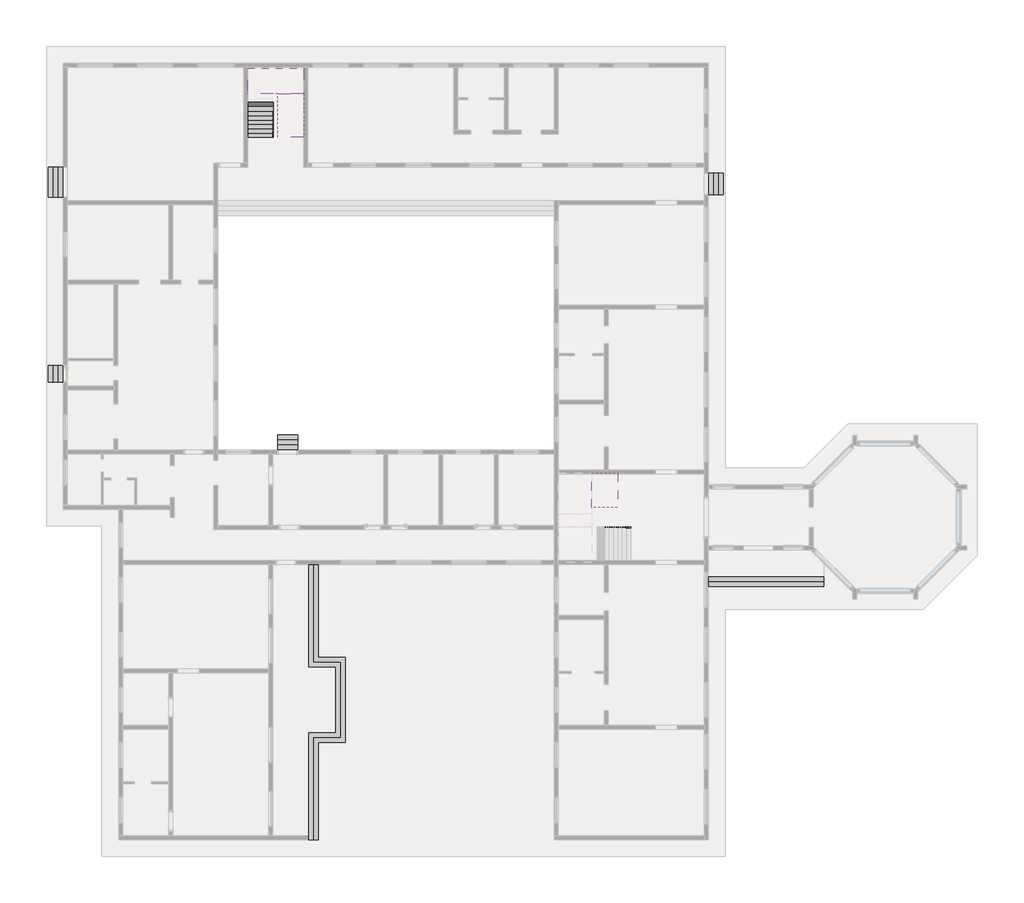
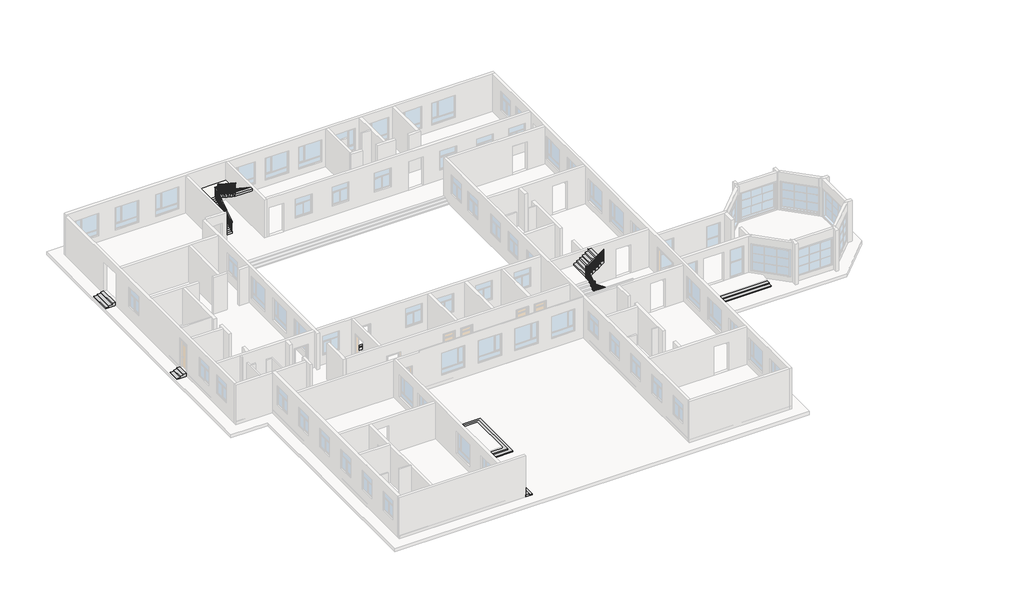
# One storey, part 5 of 5: 3 stair flights, 2 railings, 1 proxy, 1 slab.
"""IFC4 building model written with IfcOpenShell, lengths in millimetres."""

from ifc_helpers import new_model, si_unit, frame, origin, place, context, project, spatial, polyline, outline, extrude, faceted_brep, transform, mapped, element, save
from components import generic_models_56ddb578

model = new_model("IFC4")

# Units and contexts
model_context = context("Model", 3, world=origin())
ifc_project = project(units=[si_unit("LENGTHUNIT", "METRE", prefix="MILLI")], contexts=[model_context])

# Site, building, storey
site = spatial("IfcSite", under=ifc_project)
building = spatial("IfcBuilding", under=site)
storey = spatial("IfcBuildingStorey", under=building, Name="一层", Elevation=0.0)

# Proxy
placement = place(None, origin())
generic_models_shape = generic_models_56ddb578(model_context)
element("IfcBuildingElementProxy", 1, Name="常规模型 1 : 常规模型 1", ObjectType="常规模型 1 : 常规模型 1", at=placement, inside=storey, context=model_context, shape_type="MappedRepresentation", body=[
    mapped(generic_models_shape, transform((0.0, 0.0, 0.0), x_axis=(1.0, 0.0, 0.0), y_axis=(0.0, 1.0, 0.0), z_axis=(0.0, 0.0, 1.0))),
])

# Railings
element("IfcRailing", 2, ObjectType="900mm 2", at=placement, inside=storey, context=model_context, shape_type="SolidModel", body=[
    faceted_brep([(1589.7168608, -9143.7838385, 1080.0), (1589.7168608, -9143.7838385, 1019.1869681), (1589.7168608, -9093.7838385, 1019.1869681), (1589.7168608, -9093.7838385, 1080.0), (-675.2831392, -9143.7838385, 2648.0769231), (-725.2831392, -9143.7838385, 2621.8792758), (-725.2831392, -9093.7838385, 2621.8792758), (-675.2831392, -9093.7838385, 2648.0769231), (-800.2831392, -9003.1650146, 2881.9230769), (-800.2831392, -9018.7838385, 2931.9230769), (-800.2831392, -7993.7838385, 3641.5384615), (-800.2831392, -7978.1650146, 3591.5384615), (-750.2831392, -9003.1650146, 2881.9230769), (-750.2831392, -7978.1650146, 3591.5384615), (-750.2831392, -9018.7838385, 2931.9230769), (-750.2831392, -7993.7838385, 3641.5384615), (-800.2831392, -7883.7838385, 3591.5384615), (-800.2831392, -7883.7838385, 3641.5384615), (-690.2831392, -7883.7838385, 3641.5384615), (-674.6643153, -7883.7838385, 3591.5384615), (-750.2831392, -7933.7838385, 3591.5384615), (-674.6643153, -7933.7838385, 3591.5384615), (-750.2831392, -7933.7838385, 3641.5384615), (-690.2831392, -7933.7838385, 3641.5384615), (-675.2831392, -9143.7838385, 2931.9230769), (-725.2831392, -9143.7838385, 2881.9230769), (-725.2831392, -9093.7838385, 2881.9230769), (-675.2831392, -9093.7838385, 2931.9230769), (-800.2831392, -9143.7838385, 2931.9230769), (-800.2831392, -9143.7838385, 2881.9230769), (-750.2831392, -9093.7838385, 2881.9230769), (-750.2831392, -9093.7838385, 2931.9230769), (809.7168608, -7883.7838385, 4680.0), (809.7168608, -7933.7838385, 4680.0), (809.7168608, -7933.7838385, 4619.1869681), (809.7168608, -7883.7838385, 4619.1869681)], [[[0, 1, 2, 3]], [[1, 0, 4, 5]], [[2, 1, 5, 6]], [[3, 2, 6, 7]], [[0, 3, 7, 4]], [[8, 9, 10, 11]], [[12, 8, 11, 13]], [[14, 12, 13, 15]], [[9, 14, 15, 10]], [[16, 17, 18, 19]], [[20, 16, 19, 21]], [[22, 20, 21, 23]], [[17, 22, 23, 18]], [[5, 4, 24, 25]], [[6, 5, 25, 26]], [[7, 6, 26, 27]], [[4, 7, 27, 24]], [[25, 24, 28, 29]], [[26, 25, 29, 30]], [[27, 26, 30, 31]], [[24, 27, 31, 28]], [[29, 28, 9, 8]], [[30, 29, 8, 12]], [[31, 30, 12, 14]], [[28, 31, 14, 9]], [[11, 10, 17, 16]], [[13, 11, 16, 20]], [[15, 13, 20, 22]], [[10, 15, 22, 17]], [[32, 33, 34, 35]], [[19, 18, 32, 35]], [[21, 19, 35, 34]], [[23, 21, 34, 33]], [[18, 23, 33, 32]]]),
    extrude(outline(polyline([(4608.8023527, 794.7168608), (3600.0, 794.7168608), (3600.0, 814.7168608), (4622.6485065, 814.7168608), (4608.8023527, 794.7168608)])), frame((0.0, -7918.7838385, 0.0), z_axis=(0.0, 1.0, 0.0), x_axis=(0.0, 0.0, 1.0)), (0.0, 0.0, 1.0), 20.0),
    extrude(outline(polyline([(4518.8023527, 664.7168608), (3600.0, 664.7168608), (3600.0, 684.7168608), (4532.6485065, 684.7168608), (4518.8023527, 664.7168608)])), frame((0.0, -7918.7838385, 0.0), z_axis=(0.0, 1.0, 0.0), x_axis=(0.0, 0.0, 1.0)), (0.0, 0.0, 1.0), 20.0),
    extrude(outline(polyline([(4428.8023527, 534.7168608), (3420.0, 534.7168608), (3420.0, 554.7168608), (4442.6485065, 554.7168608), (4428.8023527, 534.7168608)])), frame((0.0, -7918.7838385, 0.0), z_axis=(0.0, 1.0, 0.0), x_axis=(0.0, 0.0, 1.0)), (0.0, 0.0, 1.0), 20.0),
    extrude(outline(polyline([(4338.8023527, 404.7168608), (3420.0, 404.7168608), (3420.0, 424.7168608), (4352.6485065, 424.7168608), (4338.8023527, 404.7168608)])), frame((0.0, -7918.7838385, 0.0), z_axis=(0.0, 1.0, 0.0), x_axis=(0.0, 0.0, 1.0)), (0.0, 0.0, 1.0), 20.0),
    extrude(outline(polyline([(4248.8023527, 274.7168608), (3240.0, 274.7168608), (3240.0, 294.7168608), (4262.6485065, 294.7168608), (4248.8023527, 274.7168608)])), frame((0.0, -7918.7838385, 0.0), z_axis=(0.0, 1.0, 0.0), x_axis=(0.0, 0.0, 1.0)), (0.0, 0.0, 1.0), 20.0),
    extrude(outline(polyline([(4158.8023527, 144.7168608), (3240.0, 144.7168608), (3240.0, 164.7168608), (4172.6485065, 164.7168608), (4158.8023527, 144.7168608)])), frame((0.0, -7918.7838385, 0.0), z_axis=(0.0, 1.0, 0.0), x_axis=(0.0, 0.0, 1.0)), (0.0, 0.0, 1.0), 20.0),
    extrude(outline(polyline([(4068.8023527, 14.7168608), (3060.0, 14.7168608), (3060.0, 34.7168608), (4082.6485065, 34.7168608), (4068.8023527, 14.7168608)])), frame((0.0, -7918.7838385, 0.0), z_axis=(0.0, 1.0, 0.0), x_axis=(0.0, 0.0, 1.0)), (0.0, 0.0, 1.0), 20.0),
    extrude(outline(polyline([(3978.8023527, -115.2831392), (3060.0, -115.2831392), (3060.0, -95.2831392), (3992.6485065, -95.2831392), (3978.8023527, -115.2831392)])), frame((0.0, -7918.7838385, 0.0), z_axis=(0.0, 1.0, 0.0), x_axis=(0.0, 0.0, 1.0)), (0.0, 0.0, 1.0), 20.0),
    extrude(outline(polyline([(3888.8023527, -245.2831392), (2880.0, -245.2831392), (2880.0, -225.2831392), (3902.6485065, -225.2831392), (3888.8023527, -245.2831392)])), frame((0.0, -7918.7838385, 0.0), z_axis=(0.0, 1.0, 0.0), x_axis=(0.0, 0.0, 1.0)), (0.0, 0.0, 1.0), 20.0),
    extrude(outline(polyline([(3798.8023527, -375.2831392), (2880.0, -375.2831392), (2880.0, -355.2831392), (3812.6485065, -355.2831392), (3798.8023527, -375.2831392)])), frame((0.0, -7918.7838385, 0.0), z_axis=(0.0, 1.0, 0.0), x_axis=(0.0, 0.0, 1.0)), (0.0, 0.0, 1.0), 20.0),
    extrude(outline(polyline([(3708.8023527, -505.2831392), (2700.0, -505.2831392), (2700.0, -485.2831392), (3722.6485065, -485.2831392), (3708.8023527, -505.2831392)])), frame((0.0, -7918.7838385, 0.0), z_axis=(0.0, 1.0, 0.0), x_axis=(0.0, 0.0, 1.0)), (0.0, 0.0, 1.0), 20.0),
    extrude(outline(polyline([(3618.8023527, -635.2831392), (2700.0, -635.2831392), (2700.0, -615.2831392), (3632.6485065, -615.2831392), (3618.8023527, -635.2831392)])), frame((0.0, -7918.7838385, 0.0), z_axis=(0.0, 1.0, 0.0), x_axis=(0.0, 0.0, 1.0)), (0.0, 0.0, 1.0), 20.0),
    extrude(outline(polyline([(-720.2831392, -7918.7838385), (-720.2831392, -7898.7838385), (-700.2831392, -7898.7838385), (-700.2831392, -7918.7838385), (-720.2831392, -7918.7838385)])), frame((0.0, 0.0, 2700.0), z_axis=(0.0, 0.0, 1.0), x_axis=(1.0, 0.0, 0.0)), (0.0, 0.0, 1.0), 891.5384615),
    extrude(outline(polyline([(-765.2831392, -7938.7838385), (-785.2831392, -7938.7838385), (-785.2831392, -7918.7838385), (-765.2831392, -7918.7838385), (-765.2831392, -7938.7838385)])), frame((0.0, 0.0, 2520.0), z_axis=(0.0, 0.0, 1.0), x_axis=(1.0, 0.0, 0.0)), (0.0, 0.0, 1.0), 1071.5384615),
    extrude(outline(polyline([(-8023.7838385, 2520.0), (-8023.7838385, 3559.9561988), (-8003.7838385, 3573.8023527), (-8003.7838385, 2520.0), (-8023.7838385, 2520.0)])), frame((-785.2831392, 0.0, 0.0), z_axis=(1.0, 0.0, 0.0), x_axis=(0.0, 1.0, 0.0)), (0.0, 0.0, 1.0), 20.0),
    extrude(outline(polyline([(-8153.7838385, 2520.0), (-8153.7838385, 3469.9561988), (-8133.7838385, 3483.8023527), (-8133.7838385, 2520.0), (-8153.7838385, 2520.0)])), frame((-785.2831392, 0.0, 0.0), z_axis=(1.0, 0.0, 0.0), x_axis=(0.0, 1.0, 0.0)), (0.0, 0.0, 1.0), 20.0),
    extrude(outline(polyline([(-8283.7838385, 2520.0), (-8283.7838385, 3379.9561988), (-8263.7838385, 3393.8023527), (-8263.7838385, 2520.0), (-8283.7838385, 2520.0)])), frame((-785.2831392, 0.0, 0.0), z_axis=(1.0, 0.0, 0.0), x_axis=(0.0, 1.0, 0.0)), (0.0, 0.0, 1.0), 20.0),
    extrude(outline(polyline([(-8413.7838385, 2340.0), (-8413.7838385, 3289.9561988), (-8393.7838385, 3303.8023527), (-8393.7838385, 2340.0), (-8413.7838385, 2340.0)])), frame((-785.2831392, 0.0, 0.0), z_axis=(1.0, 0.0, 0.0), x_axis=(0.0, 1.0, 0.0)), (0.0, 0.0, 1.0), 20.0),
    extrude(outline(polyline([(-8543.7838385, 2340.0), (-8543.7838385, 3199.9561988), (-8523.7838385, 3213.8023527), (-8523.7838385, 2340.0), (-8543.7838385, 2340.0)])), frame((-785.2831392, 0.0, 0.0), z_axis=(1.0, 0.0, 0.0), x_axis=(0.0, 1.0, 0.0)), (0.0, 0.0, 1.0), 20.0),
    extrude(outline(polyline([(-8673.7838385, 2160.0), (-8673.7838385, 3109.9561988), (-8653.7838385, 3123.8023527), (-8653.7838385, 2160.0), (-8673.7838385, 2160.0)])), frame((-785.2831392, 0.0, 0.0), z_axis=(1.0, 0.0, 0.0), x_axis=(0.0, 1.0, 0.0)), (0.0, 0.0, 1.0), 20.0),
    extrude(outline(polyline([(-8803.7838385, 2160.0), (-8803.7838385, 3019.9561988), (-8783.7838385, 3033.8023527), (-8783.7838385, 2160.0), (-8803.7838385, 2160.0)])), frame((-785.2831392, 0.0, 0.0), z_axis=(1.0, 0.0, 0.0), x_axis=(0.0, 1.0, 0.0)), (0.0, 0.0, 1.0), 20.0),
    extrude(outline(polyline([(-8933.7838385, 1980.0), (-8933.7838385, 2929.9561988), (-8913.7838385, 2943.8023527), (-8913.7838385, 1980.0), (-8933.7838385, 1980.0)])), frame((-785.2831392, 0.0, 0.0), z_axis=(1.0, 0.0, 0.0), x_axis=(0.0, 1.0, 0.0)), (0.0, 0.0, 1.0), 20.0),
    extrude(outline(polyline([(-765.2831392, -9063.7838385), (-785.2831392, -9063.7838385), (-785.2831392, -9043.7838385), (-765.2831392, -9043.7838385), (-765.2831392, -9063.7838385)])), frame((0.0, 0.0, 1980.0), z_axis=(0.0, 0.0, 1.0), x_axis=(1.0, 0.0, 0.0)), (0.0, 0.0, 1.0), 901.9230769),
    extrude(outline(polyline([(1620.0, -675.2831392), (2587.2638912, -675.2831392), (2601.110045, -695.2831392), (1620.0, -695.2831392), (1620.0, -675.2831392)])), frame((0.0, -9128.7838385, 0.0), z_axis=(0.0, 1.0, 0.0), x_axis=(0.0, 0.0, 1.0)), (0.0, 0.0, 1.0), 20.0),
    extrude(outline(polyline([(1620.0, -545.2831392), (2497.2638912, -545.2831392), (2511.110045, -565.2831392), (1620.0, -565.2831392), (1620.0, -545.2831392)])), frame((0.0, -9128.7838385, 0.0), z_axis=(0.0, 1.0, 0.0), x_axis=(0.0, 0.0, 1.0)), (0.0, 0.0, 1.0), 20.0),
    extrude(outline(polyline([(1440.0, -415.2831392), (2407.2638912, -415.2831392), (2421.110045, -435.2831392), (1440.0, -435.2831392), (1440.0, -415.2831392)])), frame((0.0, -9128.7838385, 0.0), z_axis=(0.0, 1.0, 0.0), x_axis=(0.0, 0.0, 1.0)), (0.0, 0.0, 1.0), 20.0),
    extrude(outline(polyline([(1440.0, -285.2831392), (2317.2638912, -285.2831392), (2331.110045, -305.2831392), (1440.0, -305.2831392), (1440.0, -285.2831392)])), frame((0.0, -9128.7838385, 0.0), z_axis=(0.0, 1.0, 0.0), x_axis=(0.0, 0.0, 1.0)), (0.0, 0.0, 1.0), 20.0),
    extrude(outline(polyline([(1260.0, -155.2831392), (2227.2638912, -155.2831392), (2241.110045, -175.2831392), (1260.0, -175.2831392), (1260.0, -155.2831392)])), frame((0.0, -9128.7838385, 0.0), z_axis=(0.0, 1.0, 0.0), x_axis=(0.0, 0.0, 1.0)), (0.0, 0.0, 1.0), 20.0),
    extrude(outline(polyline([(1260.0, -25.2831392), (2137.2638912, -25.2831392), (2151.110045, -45.2831392), (1260.0, -45.2831392), (1260.0, -25.2831392)])), frame((0.0, -9128.7838385, 0.0), z_axis=(0.0, 1.0, 0.0), x_axis=(0.0, 0.0, 1.0)), (0.0, 0.0, 1.0), 20.0),
    extrude(outline(polyline([(1080.0, 104.7168608), (2047.2638912, 104.7168608), (2061.110045, 84.7168608), (1080.0, 84.7168608), (1080.0, 104.7168608)])), frame((0.0, -9128.7838385, 0.0), z_axis=(0.0, 1.0, 0.0), x_axis=(0.0, 0.0, 1.0)), (0.0, 0.0, 1.0), 20.0),
    extrude(outline(polyline([(1080.0, 234.7168608), (1957.2638912, 234.7168608), (1971.110045, 214.7168608), (1080.0, 214.7168608), (1080.0, 234.7168608)])), frame((0.0, -9128.7838385, 0.0), z_axis=(0.0, 1.0, 0.0), x_axis=(0.0, 0.0, 1.0)), (0.0, 0.0, 1.0), 20.0),
    extrude(outline(polyline([(900.0, 364.7168608), (1867.2638912, 364.7168608), (1881.110045, 344.7168608), (900.0, 344.7168608), (900.0, 364.7168608)])), frame((0.0, -9128.7838385, 0.0), z_axis=(0.0, 1.0, 0.0), x_axis=(0.0, 0.0, 1.0)), (0.0, 0.0, 1.0), 20.0),
    extrude(outline(polyline([(900.0, 494.7168608), (1777.2638912, 494.7168608), (1791.110045, 474.7168608), (900.0, 474.7168608), (900.0, 494.7168608)])), frame((0.0, -9128.7838385, 0.0), z_axis=(0.0, 1.0, 0.0), x_axis=(0.0, 0.0, 1.0)), (0.0, 0.0, 1.0), 20.0),
    extrude(outline(polyline([(720.0, 624.7168608), (1687.2638912, 624.7168608), (1701.110045, 604.7168608), (720.0, 604.7168608), (720.0, 624.7168608)])), frame((0.0, -9128.7838385, 0.0), z_axis=(0.0, 1.0, 0.0), x_axis=(0.0, 0.0, 1.0)), (0.0, 0.0, 1.0), 20.0),
    extrude(outline(polyline([(720.0, 754.7168608), (1597.2638912, 754.7168608), (1611.110045, 734.7168608), (720.0, 734.7168608), (720.0, 754.7168608)])), frame((0.0, -9128.7838385, 0.0), z_axis=(0.0, 1.0, 0.0), x_axis=(0.0, 0.0, 1.0)), (0.0, 0.0, 1.0), 20.0),
    extrude(outline(polyline([(540.0, 884.7168608), (1507.2638912, 884.7168608), (1521.110045, 864.7168608), (540.0, 864.7168608), (540.0, 884.7168608)])), frame((0.0, -9128.7838385, 0.0), z_axis=(0.0, 1.0, 0.0), x_axis=(0.0, 0.0, 1.0)), (0.0, 0.0, 1.0), 20.0),
    extrude(outline(polyline([(540.0, 1014.7168608), (1417.2638912, 1014.7168608), (1431.110045, 994.7168608), (540.0, 994.7168608), (540.0, 1014.7168608)])), frame((0.0, -9128.7838385, 0.0), z_axis=(0.0, 1.0, 0.0), x_axis=(0.0, 0.0, 1.0)), (0.0, 0.0, 1.0), 20.0),
    extrude(outline(polyline([(360.0, 1144.7168608), (1327.2638912, 1144.7168608), (1341.110045, 1124.7168608), (360.0, 1124.7168608), (360.0, 1144.7168608)])), frame((0.0, -9128.7838385, 0.0), z_axis=(0.0, 1.0, 0.0), x_axis=(0.0, 0.0, 1.0)), (0.0, 0.0, 1.0), 20.0),
    extrude(outline(polyline([(360.0, 1274.7168608), (1237.2638912, 1274.7168608), (1251.110045, 1254.7168608), (360.0, 1254.7168608), (360.0, 1274.7168608)])), frame((0.0, -9128.7838385, 0.0), z_axis=(0.0, 1.0, 0.0), x_axis=(0.0, 0.0, 1.0)), (0.0, 0.0, 1.0), 20.0),
    extrude(outline(polyline([(180.0, 1404.7168608), (1147.2638912, 1404.7168608), (1161.110045, 1384.7168608), (180.0, 1384.7168608), (180.0, 1404.7168608)])), frame((0.0, -9128.7838385, 0.0), z_axis=(0.0, 1.0, 0.0), x_axis=(0.0, 0.0, 1.0)), (0.0, 0.0, 1.0), 20.0),
    extrude(outline(polyline([(180.0, 1534.7168608), (1057.2638912, 1534.7168608), (1071.110045, 1514.7168608), (180.0, 1514.7168608), (180.0, 1534.7168608)])), frame((0.0, -9128.7838385, 0.0), z_axis=(0.0, 1.0, 0.0), x_axis=(0.0, 0.0, 1.0)), (0.0, 0.0, 1.0), 20.0),
    extrude(outline(polyline([(-700.2831392, -7918.7838385), (-700.2831392, -7898.7838385), (-680.2831392, -7898.7838385), (-680.2831392, -7918.7838385), (-700.2831392, -7918.7838385)])), frame((0.0, 0.0, 2700.0), z_axis=(0.0, 0.0, 1.0), x_axis=(1.0, 0.0, 0.0)), (0.0, 0.0, 1.0), 891.5384615),
    extrude(outline(polyline([(-765.2831392, -7918.7838385), (-785.2831392, -7918.7838385), (-785.2831392, -7898.7838385), (-765.2831392, -7898.7838385), (-765.2831392, -7918.7838385)])), frame((0.0, 0.0, 2520.0), z_axis=(0.0, 0.0, 1.0), x_axis=(1.0, 0.0, 0.0)), (0.0, 0.0, 1.0), 1071.5384615),
    extrude(outline(polyline([(-8003.7838385, 2520.0), (-8003.7838385, 3573.8023527), (-7983.7838385, 3587.6485065), (-7983.7838385, 2520.0), (-8003.7838385, 2520.0)])), frame((-785.2831392, 0.0, 0.0), z_axis=(1.0, 0.0, 0.0), x_axis=(0.0, 1.0, 0.0)), (0.0, 0.0, 1.0), 20.0),
    extrude(outline(polyline([(-765.2831392, -9128.7838385), (-785.2831392, -9128.7838385), (-785.2831392, -9108.7838385), (-765.2831392, -9108.7838385), (-765.2831392, -9128.7838385)])), frame((0.0, 0.0, 1800.0), z_axis=(0.0, 0.0, 1.0), x_axis=(1.0, 0.0, 0.0)), (0.0, 0.0, 1.0), 1081.9230769),
])
element("IfcRailing", 3, ObjectType="900mm 5", at=placement, inside=storey, context=model_context, shape_type="SolidModel", body=[
    faceted_brep([(-19850.6831392, 14256.2161615, 1071.4285714), (-19850.6831392, 14256.2161615, 1011.5384615), (-19800.6831392, 14256.2161615, 1011.5384615), (-19800.6831392, 14256.2161615, 1071.4285714), (-19850.6831392, 16781.6161615, 2736.5274725), (-19850.6831392, 16831.6161615, 2709.6043956), (-19800.6831392, 16831.6161615, 2709.6043956), (-19800.6831392, 16781.6161615, 2736.5274725), (-19850.6831392, 16781.6161615, 2785.7142857), (-19850.6831392, 16831.6161615, 2735.7142857), (-19800.6831392, 16831.6161615, 2735.7142857), (-19800.6831392, 16781.6161615, 2785.7142857), (-19850.6831392, 16906.6161615, 2785.7142857), (-19850.6831392, 16906.6161615, 2735.7142857), (-19800.6831392, 16856.6161615, 2735.7142857), (-19800.6831392, 16856.6161615, 2785.7142857), (-19725.6831392, 16906.6161615, 2785.7142857), (-19725.6831392, 16906.6161615, 2735.7142857), (-19725.6831392, 16856.6161615, 2735.7142857), (-19725.6831392, 16856.6161615, 2785.7142857), (-19614.8831392, 16906.6161615, 2785.7142857), (-19564.8831392, 16906.6161615, 2735.7142857), (-19564.8831392, 16856.6161615, 2735.7142857), (-19614.8831392, 16856.6161615, 2785.7142857), (-19614.8831392, 16906.6161615, 3006.3296703), (-19564.8831392, 16906.6161615, 2956.3296703), (-19564.8831392, 16856.6161615, 2956.3296703), (-19614.8831392, 16856.6161615, 3006.3296703), (-19489.8831392, 16906.6161615, 3006.3296703), (-19489.8831392, 16906.6161615, 2956.3296703), (-19539.8831392, 16856.6161615, 2956.3296703), (-19539.8831392, 16856.6161615, 3006.3296703), (-19489.8831392, 16781.6161615, 3006.3296703), (-19489.8831392, 16766.6161615, 2956.3296703), (-19539.8831392, 16766.6161615, 2956.3296703), (-19539.8831392, 16781.6161615, 3006.3296703), (-19489.8831392, 14256.2161615, 4671.4285714), (-19539.8831392, 14256.2161615, 4671.4285714), (-19539.8831392, 14256.2161615, 4611.5384615), (-19489.8831392, 14256.2161615, 4611.5384615)], [[[0, 1, 2, 3]], [[1, 0, 4, 5]], [[2, 1, 5, 6]], [[3, 2, 6, 7]], [[0, 3, 7, 4]], [[5, 4, 8, 9]], [[6, 5, 9, 10]], [[7, 6, 10, 11]], [[4, 7, 11, 8]], [[9, 8, 12, 13]], [[10, 9, 13, 14]], [[11, 10, 14, 15]], [[8, 11, 15, 12]], [[13, 12, 16, 17]], [[14, 13, 17, 18]], [[15, 14, 18, 19]], [[12, 15, 19, 16]], [[17, 16, 20, 21]], [[18, 17, 21, 22]], [[19, 18, 22, 23]], [[16, 19, 23, 20]], [[21, 20, 24, 25]], [[22, 21, 25, 26]], [[23, 22, 26, 27]], [[20, 23, 27, 24]], [[25, 24, 28, 29]], [[26, 25, 29, 30]], [[27, 26, 30, 31]], [[24, 27, 31, 28]], [[29, 28, 32, 33]], [[30, 29, 33, 34]], [[31, 30, 34, 35]], [[28, 31, 35, 32]], [[36, 37, 38, 39]], [[33, 32, 36, 39]], [[34, 33, 39, 38]], [[35, 34, 38, 37]], [[32, 35, 37, 36]]]),
    extrude(outline(polyline([(14356.6161615, 4545.3406593), (14356.6161615, 3600.0), (14336.6161615, 3600.0), (14336.6161615, 4558.5274725), (14356.6161615, 4545.3406593)])), frame((-19524.8831392, 0.0, 0.0), z_axis=(1.0, 0.0, 0.0), x_axis=(0.0, 1.0, 0.0)), (0.0, 0.0, 1.0), 20.0),
    extrude(outline(polyline([(14486.6161615, 4459.6263736), (14486.6161615, 3600.0), (14466.6161615, 3600.0), (14466.6161615, 4472.8131868), (14486.6161615, 4459.6263736)])), frame((-19524.8831392, 0.0, 0.0), z_axis=(1.0, 0.0, 0.0), x_axis=(0.0, 1.0, 0.0)), (0.0, 0.0, 1.0), 20.0),
    extrude(outline(polyline([(14616.6161615, 4373.9120879), (14616.6161615, 3428.5714286), (14596.6161615, 3428.5714286), (14596.6161615, 4387.0989011), (14616.6161615, 4373.9120879)])), frame((-19524.8831392, 0.0, 0.0), z_axis=(1.0, 0.0, 0.0), x_axis=(0.0, 1.0, 0.0)), (0.0, 0.0, 1.0), 20.0),
    extrude(outline(polyline([(14746.6161615, 4288.1978022), (14746.6161615, 3428.5714286), (14726.6161615, 3428.5714286), (14726.6161615, 4301.3846154), (14746.6161615, 4288.1978022)])), frame((-19524.8831392, 0.0, 0.0), z_axis=(1.0, 0.0, 0.0), x_axis=(0.0, 1.0, 0.0)), (0.0, 0.0, 1.0), 20.0),
    extrude(outline(polyline([(14876.6161615, 4202.4835165), (14876.6161615, 3257.1428571), (14856.6161615, 3257.1428571), (14856.6161615, 4215.6703297), (14876.6161615, 4202.4835165)])), frame((-19524.8831392, 0.0, 0.0), z_axis=(1.0, 0.0, 0.0), x_axis=(0.0, 1.0, 0.0)), (0.0, 0.0, 1.0), 20.0),
    extrude(outline(polyline([(15006.6161615, 4116.7692308), (15006.6161615, 3257.1428571), (14986.6161615, 3257.1428571), (14986.6161615, 4129.956044), (15006.6161615, 4116.7692308)])), frame((-19524.8831392, 0.0, 0.0), z_axis=(1.0, 0.0, 0.0), x_axis=(0.0, 1.0, 0.0)), (0.0, 0.0, 1.0), 20.0),
    extrude(outline(polyline([(15136.6161615, 4031.0549451), (15136.6161615, 3085.7142857), (15116.6161615, 3085.7142857), (15116.6161615, 4044.2417582), (15136.6161615, 4031.0549451)])), frame((-19524.8831392, 0.0, 0.0), z_axis=(1.0, 0.0, 0.0), x_axis=(0.0, 1.0, 0.0)), (0.0, 0.0, 1.0), 20.0),
    extrude(outline(polyline([(15266.6161615, 3945.3406593), (15266.6161615, 3085.7142857), (15246.6161615, 3085.7142857), (15246.6161615, 3958.5274725), (15266.6161615, 3945.3406593)])), frame((-19524.8831392, 0.0, 0.0), z_axis=(1.0, 0.0, 0.0), x_axis=(0.0, 1.0, 0.0)), (0.0, 0.0, 1.0), 20.0),
    extrude(outline(polyline([(15396.6161615, 3859.6263736), (15396.6161615, 2914.2857143), (15376.6161615, 2914.2857143), (15376.6161615, 3872.8131868), (15396.6161615, 3859.6263736)])), frame((-19524.8831392, 0.0, 0.0), z_axis=(1.0, 0.0, 0.0), x_axis=(0.0, 1.0, 0.0)), (0.0, 0.0, 1.0), 20.0),
    extrude(outline(polyline([(15526.6161615, 3773.9120879), (15526.6161615, 2914.2857143), (15506.6161615, 2914.2857143), (15506.6161615, 3787.0989011), (15526.6161615, 3773.9120879)])), frame((-19524.8831392, 0.0, 0.0), z_axis=(1.0, 0.0, 0.0), x_axis=(0.0, 1.0, 0.0)), (0.0, 0.0, 1.0), 20.0),
    extrude(outline(polyline([(15656.6161615, 3688.1978022), (15656.6161615, 2742.8571429), (15636.6161615, 2742.8571429), (15636.6161615, 3701.3846154), (15656.6161615, 3688.1978022)])), frame((-19524.8831392, 0.0, 0.0), z_axis=(1.0, 0.0, 0.0), x_axis=(0.0, 1.0, 0.0)), (0.0, 0.0, 1.0), 20.0),
    extrude(outline(polyline([(15786.6161615, 3602.4835165), (15786.6161615, 2742.8571429), (15766.6161615, 2742.8571429), (15766.6161615, 3615.6703297), (15786.6161615, 3602.4835165)])), frame((-19524.8831392, 0.0, 0.0), z_axis=(1.0, 0.0, 0.0), x_axis=(0.0, 1.0, 0.0)), (0.0, 0.0, 1.0), 20.0),
    extrude(outline(polyline([(15916.6161615, 3516.7692308), (15916.6161615, 2571.4285714), (15896.6161615, 2571.4285714), (15896.6161615, 3529.956044), (15916.6161615, 3516.7692308)])), frame((-19524.8831392, 0.0, 0.0), z_axis=(1.0, 0.0, 0.0), x_axis=(0.0, 1.0, 0.0)), (0.0, 0.0, 1.0), 20.0),
    extrude(outline(polyline([(16046.6161615, 3431.0549451), (16046.6161615, 2571.4285714), (16026.6161615, 2571.4285714), (16026.6161615, 3444.2417582), (16046.6161615, 3431.0549451)])), frame((-19524.8831392, 0.0, 0.0), z_axis=(1.0, 0.0, 0.0), x_axis=(0.0, 1.0, 0.0)), (0.0, 0.0, 1.0), 20.0),
    extrude(outline(polyline([(16176.6161615, 3345.3406593), (16176.6161615, 2400.0), (16156.6161615, 2400.0), (16156.6161615, 3358.5274725), (16176.6161615, 3345.3406593)])), frame((-19524.8831392, 0.0, 0.0), z_axis=(1.0, 0.0, 0.0), x_axis=(0.0, 1.0, 0.0)), (0.0, 0.0, 1.0), 20.0),
    extrude(outline(polyline([(16306.6161615, 3259.6263736), (16306.6161615, 2400.0), (16286.6161615, 2400.0), (16286.6161615, 3272.8131868), (16306.6161615, 3259.6263736)])), frame((-19524.8831392, 0.0, 0.0), z_axis=(1.0, 0.0, 0.0), x_axis=(0.0, 1.0, 0.0)), (0.0, 0.0, 1.0), 20.0),
    extrude(outline(polyline([(16436.6161615, 3173.9120879), (16436.6161615, 2228.5714286), (16416.6161615, 2228.5714286), (16416.6161615, 3187.0989011), (16436.6161615, 3173.9120879)])), frame((-19524.8831392, 0.0, 0.0), z_axis=(1.0, 0.0, 0.0), x_axis=(0.0, 1.0, 0.0)), (0.0, 0.0, 1.0), 20.0),
    extrude(outline(polyline([(16566.6161615, 3088.1978022), (16566.6161615, 2228.5714286), (16546.6161615, 2228.5714286), (16546.6161615, 3101.3846154), (16566.6161615, 3088.1978022)])), frame((-19524.8831392, 0.0, 0.0), z_axis=(1.0, 0.0, 0.0), x_axis=(0.0, 1.0, 0.0)), (0.0, 0.0, 1.0), 20.0),
    extrude(outline(polyline([(16696.6161615, 3002.4835165), (16696.6161615, 2057.1428571), (16676.6161615, 2057.1428571), (16676.6161615, 3015.6703297), (16696.6161615, 3002.4835165)])), frame((-19524.8831392, 0.0, 0.0), z_axis=(1.0, 0.0, 0.0), x_axis=(0.0, 1.0, 0.0)), (0.0, 0.0, 1.0), 20.0),
    extrude(outline(polyline([(-19524.8831392, 16826.6161615), (-19504.8831392, 16826.6161615), (-19504.8831392, 16806.6161615), (-19524.8831392, 16806.6161615), (-19524.8831392, 16826.6161615)])), frame((0.0, 0.0, 2057.1428571), z_axis=(0.0, 0.0, 1.0), x_axis=(1.0, 0.0, 0.0)), (0.0, 0.0, 1.0), 899.1868132),
    extrude(outline(polyline([(-19640.6831392, 16871.6161615), (-19640.6831392, 16891.6161615), (-19620.6831392, 16891.6161615), (-19620.6831392, 16871.6161615), (-19640.6831392, 16871.6161615)])), frame((0.0, 0.0, 1885.7142857), z_axis=(0.0, 0.0, 1.0), x_axis=(1.0, 0.0, 0.0)), (0.0, 0.0, 1.0), 850.0),
    extrude(outline(polyline([(-19770.6831392, 16871.6161615), (-19770.6831392, 16891.6161615), (-19750.6831392, 16891.6161615), (-19750.6831392, 16871.6161615), (-19770.6831392, 16871.6161615)])), frame((0.0, 0.0, 1885.7142857), z_axis=(0.0, 0.0, 1.0), x_axis=(1.0, 0.0, 0.0)), (0.0, 0.0, 1.0), 850.0),
    extrude(outline(polyline([(16781.2161615, 1714.2857143), (16781.2161615, 2676.3736264), (16801.2161615, 2689.5604396), (16801.2161615, 1714.2857143), (16781.2161615, 1714.2857143)])), frame((-19835.6831392, 0.0, 0.0), z_axis=(1.0, 0.0, 0.0), x_axis=(0.0, 1.0, 0.0)), (0.0, 0.0, 1.0), 20.0),
    extrude(outline(polyline([(16651.2161615, 1714.2857143), (16651.2161615, 2590.6593407), (16671.2161615, 2603.8461538), (16671.2161615, 1714.2857143), (16651.2161615, 1714.2857143)])), frame((-19835.6831392, 0.0, 0.0), z_axis=(1.0, 0.0, 0.0), x_axis=(0.0, 1.0, 0.0)), (0.0, 0.0, 1.0), 20.0),
    extrude(outline(polyline([(16521.2161615, 1542.8571429), (16521.2161615, 2504.9450549), (16541.2161615, 2518.1318681), (16541.2161615, 1542.8571429), (16521.2161615, 1542.8571429)])), frame((-19835.6831392, 0.0, 0.0), z_axis=(1.0, 0.0, 0.0), x_axis=(0.0, 1.0, 0.0)), (0.0, 0.0, 1.0), 20.0),
    extrude(outline(polyline([(16391.2161615, 1542.8571429), (16391.2161615, 2419.2307692), (16411.2161615, 2432.4175824), (16411.2161615, 1542.8571429), (16391.2161615, 1542.8571429)])), frame((-19835.6831392, 0.0, 0.0), z_axis=(1.0, 0.0, 0.0), x_axis=(0.0, 1.0, 0.0)), (0.0, 0.0, 1.0), 20.0),
    extrude(outline(polyline([(16261.2161615, 1371.4285714), (16261.2161615, 2333.5164835), (16281.2161615, 2346.7032967), (16281.2161615, 1371.4285714), (16261.2161615, 1371.4285714)])), frame((-19835.6831392, 0.0, 0.0), z_axis=(1.0, 0.0, 0.0), x_axis=(0.0, 1.0, 0.0)), (0.0, 0.0, 1.0), 20.0),
    extrude(outline(polyline([(16131.2161615, 1371.4285714), (16131.2161615, 2247.8021978), (16151.2161615, 2260.989011), (16151.2161615, 1371.4285714), (16131.2161615, 1371.4285714)])), frame((-19835.6831392, 0.0, 0.0), z_axis=(1.0, 0.0, 0.0), x_axis=(0.0, 1.0, 0.0)), (0.0, 0.0, 1.0), 20.0),
    extrude(outline(polyline([(16001.2161615, 1200.0), (16001.2161615, 2162.0879121), (16021.2161615, 2175.2747253), (16021.2161615, 1200.0), (16001.2161615, 1200.0)])), frame((-19835.6831392, 0.0, 0.0), z_axis=(1.0, 0.0, 0.0), x_axis=(0.0, 1.0, 0.0)), (0.0, 0.0, 1.0), 20.0),
    extrude(outline(polyline([(15871.2161615, 1200.0), (15871.2161615, 2076.3736264), (15891.2161615, 2089.5604396), (15891.2161615, 1200.0), (15871.2161615, 1200.0)])), frame((-19835.6831392, 0.0, 0.0), z_axis=(1.0, 0.0, 0.0), x_axis=(0.0, 1.0, 0.0)), (0.0, 0.0, 1.0), 20.0),
    extrude(outline(polyline([(15741.2161615, 1028.5714286), (15741.2161615, 1990.6593407), (15761.2161615, 2003.8461538), (15761.2161615, 1028.5714286), (15741.2161615, 1028.5714286)])), frame((-19835.6831392, 0.0, 0.0), z_axis=(1.0, 0.0, 0.0), x_axis=(0.0, 1.0, 0.0)), (0.0, 0.0, 1.0), 20.0),
    extrude(outline(polyline([(15611.2161615, 1028.5714286), (15611.2161615, 1904.9450549), (15631.2161615, 1918.1318681), (15631.2161615, 1028.5714286), (15611.2161615, 1028.5714286)])), frame((-19835.6831392, 0.0, 0.0), z_axis=(1.0, 0.0, 0.0), x_axis=(0.0, 1.0, 0.0)), (0.0, 0.0, 1.0), 20.0),
    extrude(outline(polyline([(15481.2161615, 857.1428571), (15481.2161615, 1819.2307692), (15501.2161615, 1832.4175824), (15501.2161615, 857.1428571), (15481.2161615, 857.1428571)])), frame((-19835.6831392, 0.0, 0.0), z_axis=(1.0, 0.0, 0.0), x_axis=(0.0, 1.0, 0.0)), (0.0, 0.0, 1.0), 20.0),
    extrude(outline(polyline([(15351.2161615, 857.1428571), (15351.2161615, 1733.5164835), (15371.2161615, 1746.7032967), (15371.2161615, 857.1428571), (15351.2161615, 857.1428571)])), frame((-19835.6831392, 0.0, 0.0), z_axis=(1.0, 0.0, 0.0), x_axis=(0.0, 1.0, 0.0)), (0.0, 0.0, 1.0), 20.0),
    extrude(outline(polyline([(15221.2161615, 685.7142857), (15221.2161615, 1647.8021978), (15241.2161615, 1660.989011), (15241.2161615, 685.7142857), (15221.2161615, 685.7142857)])), frame((-19835.6831392, 0.0, 0.0), z_axis=(1.0, 0.0, 0.0), x_axis=(0.0, 1.0, 0.0)), (0.0, 0.0, 1.0), 20.0),
    extrude(outline(polyline([(15091.2161615, 685.7142857), (15091.2161615, 1562.0879121), (15111.2161615, 1575.2747253), (15111.2161615, 685.7142857), (15091.2161615, 685.7142857)])), frame((-19835.6831392, 0.0, 0.0), z_axis=(1.0, 0.0, 0.0), x_axis=(0.0, 1.0, 0.0)), (0.0, 0.0, 1.0), 20.0),
    extrude(outline(polyline([(14961.2161615, 514.2857143), (14961.2161615, 1476.3736264), (14981.2161615, 1489.5604396), (14981.2161615, 514.2857143), (14961.2161615, 514.2857143)])), frame((-19835.6831392, 0.0, 0.0), z_axis=(1.0, 0.0, 0.0), x_axis=(0.0, 1.0, 0.0)), (0.0, 0.0, 1.0), 20.0),
    extrude(outline(polyline([(14831.2161615, 514.2857143), (14831.2161615, 1390.6593407), (14851.2161615, 1403.8461538), (14851.2161615, 514.2857143), (14831.2161615, 514.2857143)])), frame((-19835.6831392, 0.0, 0.0), z_axis=(1.0, 0.0, 0.0), x_axis=(0.0, 1.0, 0.0)), (0.0, 0.0, 1.0), 20.0),
    extrude(outline(polyline([(14701.2161615, 342.8571429), (14701.2161615, 1304.9450549), (14721.2161615, 1318.1318681), (14721.2161615, 342.8571429), (14701.2161615, 342.8571429)])), frame((-19835.6831392, 0.0, 0.0), z_axis=(1.0, 0.0, 0.0), x_axis=(0.0, 1.0, 0.0)), (0.0, 0.0, 1.0), 20.0),
    extrude(outline(polyline([(14571.2161615, 342.8571429), (14571.2161615, 1219.2307692), (14591.2161615, 1232.4175824), (14591.2161615, 342.8571429), (14571.2161615, 342.8571429)])), frame((-19835.6831392, 0.0, 0.0), z_axis=(1.0, 0.0, 0.0), x_axis=(0.0, 1.0, 0.0)), (0.0, 0.0, 1.0), 20.0),
    extrude(outline(polyline([(14441.2161615, 171.4285714), (14441.2161615, 1133.5164835), (14461.2161615, 1146.7032967), (14461.2161615, 171.4285714), (14441.2161615, 171.4285714)])), frame((-19835.6831392, 0.0, 0.0), z_axis=(1.0, 0.0, 0.0), x_axis=(0.0, 1.0, 0.0)), (0.0, 0.0, 1.0), 20.0),
    extrude(outline(polyline([(14311.2161615, 171.4285714), (14311.2161615, 1047.8021978), (14331.2161615, 1060.989011), (14331.2161615, 171.4285714), (14311.2161615, 171.4285714)])), frame((-19835.6831392, 0.0, 0.0), z_axis=(1.0, 0.0, 0.0), x_axis=(0.0, 1.0, 0.0)), (0.0, 0.0, 1.0), 20.0),
    extrude(outline(polyline([(-19524.8831392, 16891.6161615), (-19504.8831392, 16891.6161615), (-19504.8831392, 16871.6161615), (-19524.8831392, 16871.6161615), (-19524.8831392, 16891.6161615)])), frame((0.0, 0.0, 1885.7142857), z_axis=(0.0, 0.0, 1.0), x_axis=(1.0, 0.0, 0.0)), (0.0, 0.0, 1.0), 1070.6153846),
    extrude(outline(polyline([(-19815.6831392, 16871.6161615), (-19835.6831392, 16871.6161615), (-19835.6831392, 16891.6161615), (-19815.6831392, 16891.6161615), (-19815.6831392, 16871.6161615)])), frame((0.0, 0.0, 1885.7142857), z_axis=(0.0, 0.0, 1.0), x_axis=(1.0, 0.0, 0.0)), (0.0, 0.0, 1.0), 850.0),
    extrude(outline(polyline([(-19815.6831392, 16846.2161615), (-19835.6831392, 16846.2161615), (-19835.6831392, 16866.2161615), (-19815.6831392, 16866.2161615), (-19815.6831392, 16846.2161615)])), frame((0.0, 0.0, 1885.7142857), z_axis=(0.0, 0.0, 1.0), x_axis=(1.0, 0.0, 0.0)), (0.0, 0.0, 1.0), 850.0),
])

# Slab
element("IfcSlab", 4, ObjectType="250 厚度", at=placement, inside=storey, context=model_context, shape_type="Brep", body=[
    faceted_brep([(-21350.2831392, 16856.2161615, 1885.7142857), (-19800.2831392, 16856.2161615, 1885.7142857), (-19540.2831392, 16856.2161615, 1885.7142857), (-17990.2831392, 16856.2161615, 1885.7142857), (-17990.2831392, 16962.8828282, 1885.7142857), (-17990.2831392, 18406.2161615, 1885.7142857), (-21350.2831392, 18406.2161615, 1885.7142857), (-21350.2831392, 17009.5494949, 1885.7142857), (-21350.2831392, 16856.2161615, 1714.2857143), (-21350.2831392, 16856.2161615, 1534.6153846), (-19800.2831392, 16856.2161615, 1534.6153846), (-19800.2831392, 16856.2161615, 1635.7142857), (-19540.2831392, 16856.2161615, 1635.7142857), (-19540.2831392, 16856.2161615, 1706.043956), (-17990.2831392, 16856.2161615, 1706.043956), (-17990.2831392, 16962.8828282, 1635.7142857), (-17990.2831392, 18406.2161615, 1635.7142857), (-21350.2831392, 18406.2161615, 1635.7142857), (-21350.2831392, 17009.5494949, 1635.7142857), (-19540.2831392, 16962.8828282, 1635.7142857), (-19800.2831392, 17009.5494949, 1635.7142857)], [[[0, 1, 2, 3, 4, 5, 6, 7]], [[1, 0, 8, 9, 10, 11]], [[2, 1, 11, 12, 13]], [[3, 2, 13, 14]], [[3, 14, 15, 16, 5, 4]], [[6, 5, 16, 17]], [[9, 8, 0, 7, 6, 17, 18]], [[19, 12, 11, 20, 18, 17, 16, 15]], [[12, 19, 13]], [[18, 20, 10, 9]], [[20, 11, 10]], [[19, 15, 14, 13]]]),
])

# Stair flights
element("IfcStairFlight", 5, ObjectType="150mm 结构深度", at=placement, inside=storey, context=model_context, shape_type="Brep", body=[
    faceted_brep([(-490.2831392, -5873.7838385, 2700.0), (-750.2831392, -5873.7838385, 2700.0), (-750.2831392, -7933.7838385, 2700.0), (-490.2831392, -7933.7838385, 2700.0), (-490.2831392, -5873.7838385, 2517.5609042), (-750.2831392, -5873.7838385, 2337.5609042), (-750.2831392, -5873.7838385, 2520.0), (-750.2831392, -7933.7838385, 2337.5609042), (-490.2831392, -7933.7838385, 2517.5609042), (-230.2831392, -5873.7838385, 2880.0), (-490.2831392, -5873.7838385, 2880.0), (-490.2831392, -7933.7838385, 2880.0), (-230.2831392, -7933.7838385, 2880.0), (-230.2831392, -5873.7838385, 2697.5609042), (-230.2831392, -7933.7838385, 2697.5609042), (29.7168608, -5873.7838385, 3060.0), (-230.2831392, -5873.7838385, 3060.0), (-230.2831392, -7933.7838385, 3060.0), (29.7168608, -7933.7838385, 3060.0), (29.7168608, -5873.7838385, 2877.5609042), (29.7168608, -7933.7838385, 2877.5609042), (289.7168608, -5873.7838385, 3240.0), (29.7168608, -5873.7838385, 3240.0), (29.7168608, -7933.7838385, 3240.0), (289.7168608, -7933.7838385, 3240.0), (289.7168608, -5873.7838385, 3057.5609042), (289.7168608, -7933.7838385, 3057.5609042), (549.7168608, -5873.7838385, 3420.0), (289.7168608, -5873.7838385, 3420.0), (289.7168608, -7933.7838385, 3420.0), (549.7168608, -7933.7838385, 3420.0), (549.7168608, -5873.7838385, 3237.5609042), (549.7168608, -7933.7838385, 3237.5609042), (809.7168608, -5873.7838385, 3417.5609042), (809.7168608, -7933.7838385, 3417.5609042), (809.7168608, -5873.7838385, 3600.0), (549.7168608, -5873.7838385, 3600.0), (549.7168608, -7933.7838385, 3600.0), (809.7168608, -7933.7838385, 3600.0)], [[[0, 1, 2, 3]], [[1, 0, 4, 5, 6]], [[2, 1, 6, 5, 7]], [[3, 2, 7, 8]], [[9, 10, 11, 12]], [[10, 9, 13, 4, 0]], [[11, 10, 0, 3]], [[12, 11, 3, 8, 14]], [[15, 16, 17, 18]], [[16, 15, 19, 13, 9]], [[17, 16, 9, 12]], [[18, 17, 12, 14, 20]], [[21, 22, 23, 24]], [[22, 21, 25, 19, 15]], [[23, 22, 15, 18]], [[24, 23, 18, 20, 26]], [[27, 28, 29, 30]], [[28, 27, 31, 25, 21]], [[29, 28, 21, 24]], [[30, 29, 24, 26, 32]], [[5, 4, 13, 19, 25, 31, 33, 34, 32, 26, 20, 14, 8, 7]], [[35, 36, 37, 38]], [[36, 35, 33, 31, 27]], [[37, 36, 27, 30]], [[38, 37, 30, 32, 34]], [[35, 38, 34, 33]]]),
])
element("IfcStairFlight", 6, ObjectType="150mm 结构深度", at=placement, inside=storey, context=model_context, shape_type="Brep", body=[
    faceted_brep([(-21350.2831392, 14516.2161615, 171.4285714), (-21350.2831392, 14256.2161615, 171.4285714), (-19800.2831392, 14256.2161615, 171.4285714), (-19800.2831392, 14516.2161615, 171.4285714), (-21350.2831392, 14516.2161615, 0.0), (-21350.2831392, 14256.2161615, 0.0), (-19800.2831392, 14256.2161615, 0.0), (-19800.2831392, 14516.2161615, 0.0), (-21350.2831392, 14776.2161615, 342.8571429), (-21350.2831392, 14516.2161615, 342.8571429), (-19800.2831392, 14516.2161615, 342.8571429), (-19800.2831392, 14776.2161615, 342.8571429), (-21350.2831392, 14776.2161615, 163.1868132), (-21350.2831392, 14528.7161615, 0.0), (-19800.2831392, 14528.7161615, 0.0), (-19800.2831392, 14776.2161615, 163.1868132), (-21350.2831392, 15036.2161615, 514.2857143), (-21350.2831392, 14776.2161615, 514.2857143), (-19800.2831392, 14776.2161615, 514.2857143), (-19800.2831392, 15036.2161615, 514.2857143), (-21350.2831392, 15036.2161615, 334.6153846), (-19800.2831392, 15036.2161615, 334.6153846), (-21350.2831392, 15296.2161615, 685.7142857), (-21350.2831392, 15036.2161615, 685.7142857), (-19800.2831392, 15036.2161615, 685.7142857), (-19800.2831392, 15296.2161615, 685.7142857), (-21350.2831392, 15296.2161615, 506.043956), (-19800.2831392, 15296.2161615, 506.043956), (-21350.2831392, 15556.2161615, 857.1428571), (-21350.2831392, 15296.2161615, 857.1428571), (-19800.2831392, 15296.2161615, 857.1428571), (-19800.2831392, 15556.2161615, 857.1428571), (-21350.2831392, 15556.2161615, 677.4725275), (-19800.2831392, 15556.2161615, 677.4725275), (-21350.2831392, 15816.2161615, 1028.5714286), (-21350.2831392, 15556.2161615, 1028.5714286), (-19800.2831392, 15556.2161615, 1028.5714286), (-19800.2831392, 15816.2161615, 1028.5714286), (-21350.2831392, 15816.2161615, 848.9010989), (-19800.2831392, 15816.2161615, 848.9010989), (-21350.2831392, 16076.2161615, 1200.0), (-21350.2831392, 15816.2161615, 1200.0), (-19800.2831392, 15816.2161615, 1200.0), (-19800.2831392, 16076.2161615, 1200.0), (-21350.2831392, 16076.2161615, 1020.3296703), (-19800.2831392, 16076.2161615, 1020.3296703), (-21350.2831392, 16336.2161615, 1371.4285714), (-21350.2831392, 16076.2161615, 1371.4285714), (-19800.2831392, 16076.2161615, 1371.4285714), (-19800.2831392, 16336.2161615, 1371.4285714), (-21350.2831392, 16336.2161615, 1191.7582418), (-19800.2831392, 16336.2161615, 1191.7582418), (-21350.2831392, 16596.2161615, 1542.8571429), (-21350.2831392, 16336.2161615, 1542.8571429), (-19800.2831392, 16336.2161615, 1542.8571429), (-19800.2831392, 16596.2161615, 1542.8571429), (-21350.2831392, 16596.2161615, 1363.1868132), (-19800.2831392, 16596.2161615, 1363.1868132), (-21350.2831392, 16856.2161615, 1714.2857143), (-21350.2831392, 16596.2161615, 1714.2857143), (-19800.2831392, 16596.2161615, 1714.2857143), (-19800.2831392, 16856.2161615, 1714.2857143), (-21350.2831392, 16856.2161615, 1534.6153846), (-19800.2831392, 16856.2161615, 1534.6153846), (-19800.2831392, 16856.2161615, 1635.7142857)], [[[0, 1, 2, 3]], [[1, 0, 4, 5]], [[2, 1, 5, 6]], [[3, 2, 6, 7]], [[8, 9, 10, 11]], [[4, 0, 9, 8, 12, 13]], [[0, 3, 10, 9]], [[3, 7, 14, 15, 11, 10]], [[16, 17, 18, 19]], [[17, 16, 20, 12, 8]], [[8, 11, 18, 17]], [[19, 18, 11, 15, 21]], [[22, 23, 24, 25]], [[23, 22, 26, 20, 16]], [[16, 19, 24, 23]], [[25, 24, 19, 21, 27]], [[28, 29, 30, 31]], [[29, 28, 32, 26, 22]], [[22, 25, 30, 29]], [[31, 30, 25, 27, 33]], [[34, 35, 36, 37]], [[35, 34, 38, 32, 28]], [[28, 31, 36, 35]], [[37, 36, 31, 33, 39]], [[40, 41, 42, 43]], [[41, 40, 44, 38, 34]], [[34, 37, 42, 41]], [[43, 42, 37, 39, 45]], [[46, 47, 48, 49]], [[47, 46, 50, 44, 40]], [[40, 43, 48, 47]], [[49, 48, 43, 45, 51]], [[52, 53, 54, 55]], [[53, 52, 56, 50, 46]], [[46, 49, 54, 53]], [[55, 54, 49, 51, 57]], [[58, 59, 60, 61]], [[59, 58, 62, 56, 52]], [[52, 55, 60, 59]], [[61, 60, 55, 57, 63, 64]], [[58, 61, 64, 63, 62]], [[5, 4, 13, 14, 7, 6]], [[14, 13, 12, 20, 26, 32, 38, 44, 50, 56, 62, 63, 57, 51, 45, 39, 33, 27, 21, 15]]]),
])
element("IfcStairFlight", 7, ObjectType="150mm 结构深度", at=placement, inside=storey, context=model_context, shape_type="Brep", body=[
    faceted_brep([(-17990.2831392, 16596.2161615, 2057.1428571), (-17990.2831392, 16856.2161615, 2057.1428571), (-19540.2831392, 16856.2161615, 2057.1428571), (-19540.2831392, 16596.2161615, 2057.1428571), (-17990.2831392, 16596.2161615, 1877.4725275), (-17990.2831392, 16856.2161615, 1706.043956), (-17990.2831392, 16856.2161615, 1885.7142857), (-19540.2831392, 16856.2161615, 1706.043956), (-19540.2831392, 16596.2161615, 1877.4725275), (-17990.2831392, 16336.2161615, 2228.5714286), (-17990.2831392, 16596.2161615, 2228.5714286), (-19540.2831392, 16596.2161615, 2228.5714286), (-19540.2831392, 16336.2161615, 2228.5714286), (-17990.2831392, 16336.2161615, 2048.9010989), (-19540.2831392, 16336.2161615, 2048.9010989), (-17990.2831392, 16076.2161615, 2400.0), (-17990.2831392, 16336.2161615, 2400.0), (-19540.2831392, 16336.2161615, 2400.0), (-19540.2831392, 16076.2161615, 2400.0), (-17990.2831392, 16076.2161615, 2220.3296703), (-19540.2831392, 16076.2161615, 2220.3296703), (-17990.2831392, 15816.2161615, 2571.4285714), (-17990.2831392, 16076.2161615, 2571.4285714), (-19540.2831392, 16076.2161615, 2571.4285714), (-19540.2831392, 15816.2161615, 2571.4285714), (-17990.2831392, 15816.2161615, 2391.7582418), (-19540.2831392, 15816.2161615, 2391.7582418), (-17990.2831392, 15556.2161615, 2742.8571429), (-17990.2831392, 15816.2161615, 2742.8571429), (-19540.2831392, 15816.2161615, 2742.8571429), (-19540.2831392, 15556.2161615, 2742.8571429), (-17990.2831392, 15556.2161615, 2563.1868132), (-19540.2831392, 15556.2161615, 2563.1868132), (-17990.2831392, 15296.2161615, 2914.2857143), (-17990.2831392, 15556.2161615, 2914.2857143), (-19540.2831392, 15556.2161615, 2914.2857143), (-19540.2831392, 15296.2161615, 2914.2857143), (-17990.2831392, 15296.2161615, 2734.6153846), (-19540.2831392, 15296.2161615, 2734.6153846), (-17990.2831392, 15036.2161615, 3085.7142857), (-17990.2831392, 15296.2161615, 3085.7142857), (-19540.2831392, 15296.2161615, 3085.7142857), (-19540.2831392, 15036.2161615, 3085.7142857), (-17990.2831392, 15036.2161615, 2906.043956), (-19540.2831392, 15036.2161615, 2906.043956), (-17990.2831392, 14776.2161615, 3257.1428571), (-17990.2831392, 15036.2161615, 3257.1428571), (-19540.2831392, 15036.2161615, 3257.1428571), (-19540.2831392, 14776.2161615, 3257.1428571), (-17990.2831392, 14776.2161615, 3077.4725275), (-19540.2831392, 14776.2161615, 3077.4725275), (-17990.2831392, 14516.2161615, 3428.5714286), (-17990.2831392, 14776.2161615, 3428.5714286), (-19540.2831392, 14776.2161615, 3428.5714286), (-19540.2831392, 14516.2161615, 3428.5714286), (-17990.2831392, 14516.2161615, 3248.9010989), (-19540.2831392, 14516.2161615, 3248.9010989), (-17990.2831392, 14256.2161615, 3420.3296703), (-19540.2831392, 14256.2161615, 3420.3296703), (-17990.2831392, 14256.2161615, 3600.0), (-17990.2831392, 14516.2161615, 3600.0), (-19540.2831392, 14516.2161615, 3600.0), (-19540.2831392, 14256.2161615, 3600.0)], [[[0, 1, 2, 3]], [[1, 0, 4, 5, 6]], [[2, 1, 6, 5, 7]], [[3, 2, 7, 8]], [[9, 10, 11, 12]], [[10, 9, 13, 4, 0]], [[11, 10, 0, 3]], [[12, 11, 3, 8, 14]], [[15, 16, 17, 18]], [[16, 15, 19, 13, 9]], [[17, 16, 9, 12]], [[18, 17, 12, 14, 20]], [[21, 22, 23, 24]], [[22, 21, 25, 19, 15]], [[23, 22, 15, 18]], [[24, 23, 18, 20, 26]], [[27, 28, 29, 30]], [[28, 27, 31, 25, 21]], [[29, 28, 21, 24]], [[30, 29, 24, 26, 32]], [[33, 34, 35, 36]], [[34, 33, 37, 31, 27]], [[35, 34, 27, 30]], [[36, 35, 30, 32, 38]], [[39, 40, 41, 42]], [[40, 39, 43, 37, 33]], [[41, 40, 33, 36]], [[42, 41, 36, 38, 44]], [[45, 46, 47, 48]], [[46, 45, 49, 43, 39]], [[47, 46, 39, 42]], [[48, 47, 42, 44, 50]], [[51, 52, 53, 54]], [[52, 51, 55, 49, 45]], [[53, 52, 45, 48]], [[54, 53, 48, 50, 56]], [[5, 4, 13, 19, 25, 31, 37, 43, 49, 55, 57, 58, 56, 50, 44, 38, 32, 26, 20, 14, 8, 7]], [[59, 60, 61, 62]], [[60, 59, 57, 55, 51]], [[61, 60, 51, 54]], [[62, 61, 54, 56, 58]], [[59, 62, 58, 57]]]),
])

save(model, "model.ifc")
